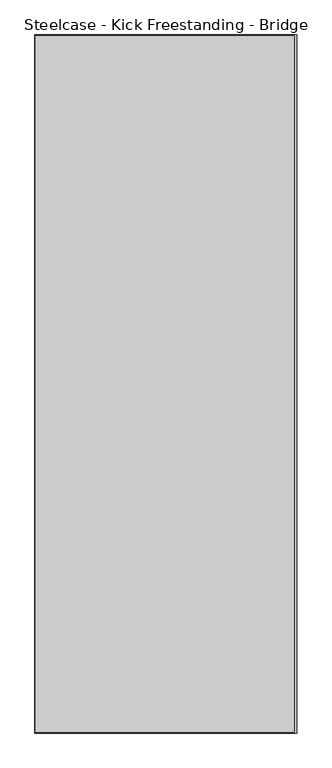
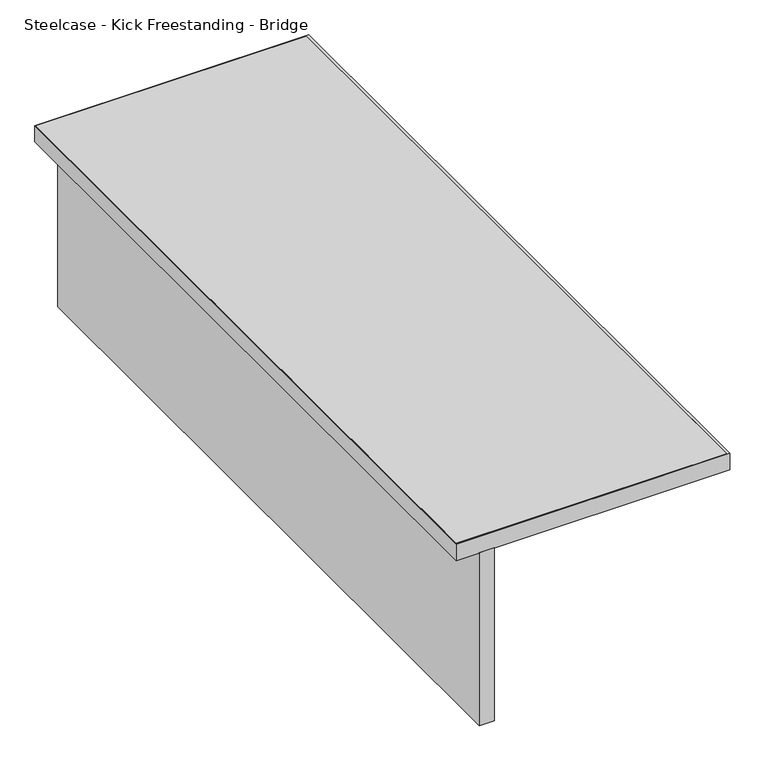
"""IFC4 building model written with IfcOpenShell, lengths in millimetres: furniture geometry, Steelcase - Kick Freestanding - Bridge : 18D x 48W - Half Panel."""

from ifc_helpers import new_model, si_unit, frame, origin, place, context, project, spatial, polyline, outline, extrude, source, transform, mapped, element, save


def steelcase_kick_freestanding_bridge_aa36d2aa(model_context):
    return source(origin(), model_context, "Body", "SweptSolid", [
        extrude(outline(polyline([(2201.9594425, -1766.0145152), (2201.9594425, -546.8145152), (2227.3594425, -546.8145152), (2227.3594425, -1766.0145152), (2201.9594425, -1766.0145152)])), frame((0.0, 0.0, 377.444), z_axis=(0.0, 0.0, 1.0), x_axis=(1.0, 0.0, 0.0)), (0.0, 0.0, 1.0), 304.8),
        extrude(outline(polyline([(2616.8176592, -548.0845152), (2616.8176592, -1764.7445152), (2164.8500425, -1764.7445152), (2164.8500425, -548.0845152), (2616.8176592, -548.0845152)])), frame((0.0, 0.0, 682.244), z_axis=(0.0, 0.0, 1.0), x_axis=(1.0, 0.0, 0.0)), (0.0, 0.0, 1.0), 28.956),
        extrude(outline(polyline([(2621.0594425, -546.8145152), (2621.0594425, -1766.0145152), (2163.8594425, -1766.0145152), (2163.8594425, -546.8145152), (2621.0594425, -546.8145152)]), holes=[polyline([(2616.8176592, -548.0845152), (2164.8500425, -548.0845152), (2164.8500425, -1764.7445152), (2616.8176592, -1764.7445152), (2616.8176592, -548.0845152)])]), frame((0.0, 0.0, 682.244), z_axis=(0.0, 0.0, 1.0), x_axis=(1.0, 0.0, 0.0)), (0.0, 0.0, 1.0), 28.956),
    ])


if __name__ == "__main__":
    model = new_model("IFC4")
    model_context = context("Model", 3, world=origin())
    ifc_project = project(units=[si_unit("LENGTHUNIT", "METRE", prefix="MILLI")], contexts=[model_context])
    site = spatial("IfcSite", under=ifc_project)
    building = spatial("IfcBuilding", under=site)
    placement = place(None, origin())
    steelcase_kick_freestanding_bridge_shape = steelcase_kick_freestanding_bridge_aa36d2aa(model_context)
    element("IfcFurniture", 1, ObjectType="Steelcase - Kick Freestanding - Bridge : 18D x 48W - Half Panel", at=placement, inside=building, context=model_context, shape_type="MappedRepresentation", body=[
        mapped(steelcase_kick_freestanding_bridge_shape, transform((0.0, 0.0, 0.0), x_axis=(1.0, 0.0, 0.0), y_axis=(0.0, 1.0, 0.0), z_axis=(0.0, 0.0, 1.0))),
    ])
    save(model, "model.ifc")
